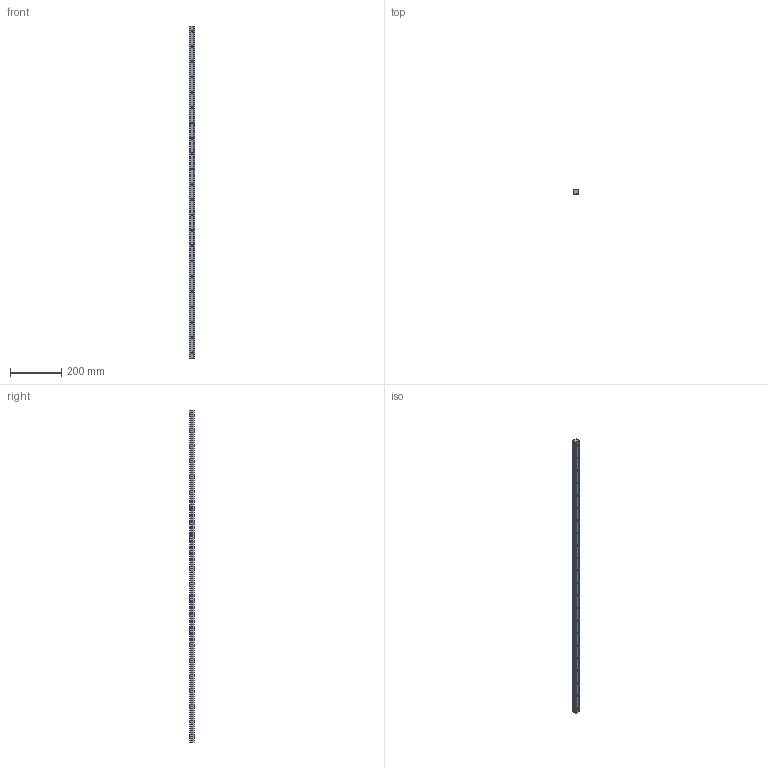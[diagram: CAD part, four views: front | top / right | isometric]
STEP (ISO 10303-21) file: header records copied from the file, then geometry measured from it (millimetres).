
FILE_DESCRIPTION (( 'STEP AP203' ), '1' );
FILE_NAME ('L1016.BL25-1300.step', '2019-06-12T12:07:18', ( '' ), ( '' ), 'SwSTEP 2.0', 'SolidWorks 2017', '' );
FILE_SCHEMA (( 'CONFIG_CONTROL_DESIGN' ));
Length unit declared in the file: millimetre
Products named in the file (1): L1016.BL25-1300
Bounding box: 23 x 19.2 x 1300 mm (x, y, z)
Volume: 478843.3 mm3; surface area: 123517.5 mm2
Topology: 1 solids, 1 shells, 136 faces, 336 edges, 224 vertices
Faces by surface type: cylinder 92, plane 44
Entity records: 4289 total; most frequent: DIRECTION 794, CARTESIAN_POINT 697, ORIENTED_EDGE 672, EDGE_CURVE 336, AXIS2_PLACEMENT_3D 321, VERTEX_POINT 224, EDGE_LOOP 202, CIRCLE 184
